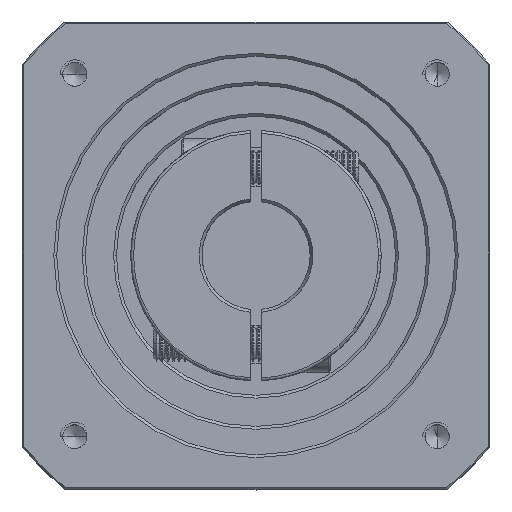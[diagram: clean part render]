
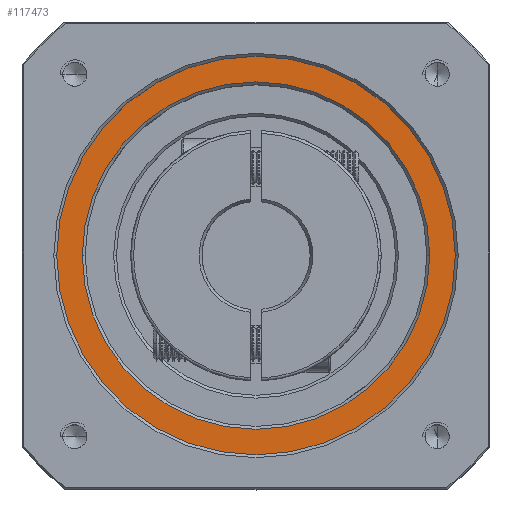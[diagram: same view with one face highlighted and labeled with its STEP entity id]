
A CAD part, top view. The second image highlights one B-rep face of the part: STEP entity #117473.
In plain terms, the highlighted planar face has unit normal (0, 0, 1).
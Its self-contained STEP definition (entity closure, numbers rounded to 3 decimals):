
#1576 = EDGE_CURVE ( 'NONE', #35632, #72552, #111309, .T. ) ;
#6048 = CARTESIAN_POINT ( 'NONE',  ( -55.86, 19.655, 17.325 ) ) ;
#8188 = ORIENTED_EDGE ( 'NONE', *, *, #60596, .T. ) ;
#9045 = EDGE_CURVE ( 'NONE', #59377, #124712, #104096, .T. ) ;
#11270 = AXIS2_PLACEMENT_3D ( 'NONE', #47693, #116350, #57467 ) ;
#15007 = AXIS2_PLACEMENT_3D ( 'NONE', #25073, #93705, #34907 ) ;
#21444 = AXIS2_PLACEMENT_3D ( 'NONE', #100980, #42191, #110816 ) ;
#25073 = CARTESIAN_POINT ( 'NONE',  ( -86.36, 19.655, 17.325 ) ) ;
#27538 = EDGE_LOOP ( 'NONE', ( #28508, #59246 ) ) ;
#27576 = CARTESIAN_POINT ( 'NONE',  ( -86.36, 19.655, 17.325 ) ) ;
#28508 = ORIENTED_EDGE ( 'NONE', *, *, #1576, .T. ) ;
#28921 = DIRECTION ( 'NONE',  ( 0., 0., -1. ) ) ;
#34358 = AXIS2_PLACEMENT_3D ( 'NONE', #27576, #96244, #37428 ) ;
#34907 = DIRECTION ( 'NONE',  ( 1., 0., 0. ) ) ;
#34948 = CARTESIAN_POINT ( 'NONE',  ( -51.36, 19.655, 17.325 ) ) ;
#35632 = VERTEX_POINT ( 'NONE', #34948 ) ;
#37428 = DIRECTION ( 'NONE',  ( 1., 0., 0. ) ) ;
#42191 = DIRECTION ( 'NONE',  ( 0., 0., -1. ) ) ;
#47693 = CARTESIAN_POINT ( 'NONE',  ( -86.36, 19.655, 17.325 ) ) ;
#52821 = FACE_OUTER_BOUND ( 'NONE', #27538, .T. ) ;
#56972 = CIRCLE ( 'NONE', #21444, 30.5 ) ;
#57467 = DIRECTION ( 'NONE',  ( 1., 0., 0. ) ) ;
#59246 = ORIENTED_EDGE ( 'NONE', *, *, #62025, .T. ) ;
#59377 = VERTEX_POINT ( 'NONE', #6048 ) ;
#60596 = EDGE_CURVE ( 'NONE', #124712, #59377, #56972, .T. ) ;
#62025 = EDGE_CURVE ( 'NONE', #72552, #35632, #119356, .T. ) ;
#72552 = VERTEX_POINT ( 'NONE', #96251 ) ;
#76031 = PLANE ( 'NONE',  #34358 ) ;
#78974 = FACE_BOUND ( 'NONE', #105842, .T. ) ;
#87684 = CARTESIAN_POINT ( 'NONE',  ( -86.36, 19.655, 17.325 ) ) ;
#93705 = DIRECTION ( 'NONE',  ( 0., 0., 1. ) ) ;
#96244 = DIRECTION ( 'NONE',  ( 0., 0., 1. ) ) ;
#96251 = CARTESIAN_POINT ( 'NONE',  ( -121.36, 19.655, 17.325 ) ) ;
#97572 = DIRECTION ( 'NONE',  ( 1., 0., 0. ) ) ;
#99446 = ORIENTED_EDGE ( 'NONE', *, *, #9045, .T. ) ;
#100980 = CARTESIAN_POINT ( 'NONE',  ( -86.36, 19.655, 17.325 ) ) ;
#104096 = CIRCLE ( 'NONE', #107751, 30.5 ) ;
#105842 = EDGE_LOOP ( 'NONE', ( #99446, #8188 ) ) ;
#107751 = AXIS2_PLACEMENT_3D ( 'NONE', #87684, #28921, #97572 ) ;
#110816 = DIRECTION ( 'NONE',  ( 1., 0., 0. ) ) ;
#111304 = CARTESIAN_POINT ( 'NONE',  ( -116.86, 19.655, 17.325 ) ) ;
#111309 = CIRCLE ( 'NONE', #11270, 35. ) ;
#116350 = DIRECTION ( 'NONE',  ( 0., 0., 1. ) ) ;
#117473 = ADVANCED_FACE ( 'NONE', ( #52821, #78974 ), #76031, .T. ) ;
#119356 = CIRCLE ( 'NONE', #15007, 35. ) ;
#124712 = VERTEX_POINT ( 'NONE', #111304 ) ;
